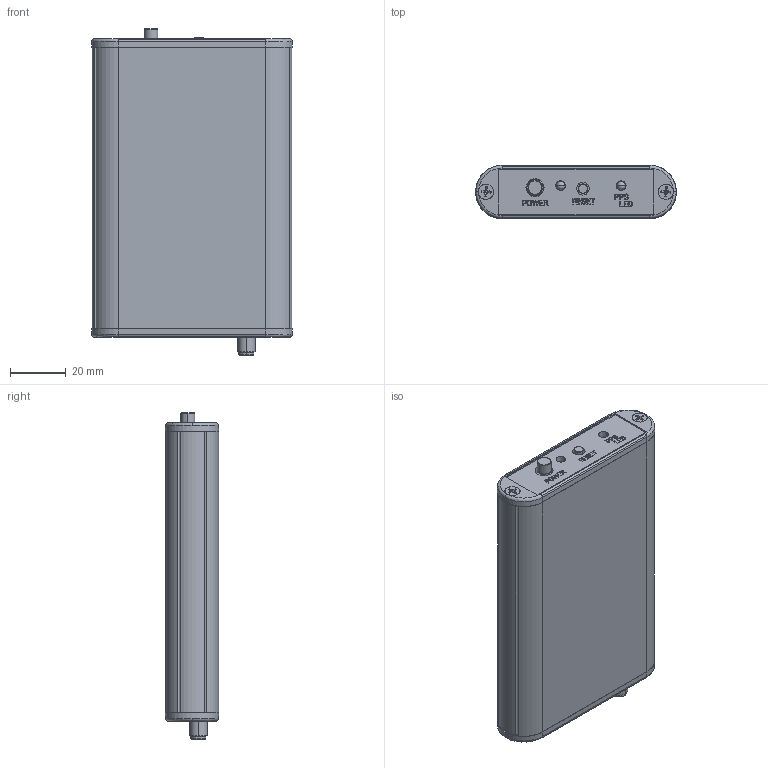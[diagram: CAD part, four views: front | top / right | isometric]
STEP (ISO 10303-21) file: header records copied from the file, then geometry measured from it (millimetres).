
FILE_DESCRIPTION (( 'STEP AP214' ), '1' );
FILE_NAME ('PNT-SG3FS-EVAL_ASSEMBLY.STEP', '2023-05-22T02:42:36', ( '' ), ( '' ), 'SwSTEP 2.0', 'SolidWorks 2020', '' );
FILE_SCHEMA (( 'AUTOMOTIVE_DESIGN' ));
Length unit declared in the file: millimetre
Products named in the file (80): CON_HDR_3P_SAM_TSW-103-07-L-S^J525_PCB_PNT-SG3FS-EVAL_預設; BB16AH_預設; 1455MS100BK_預設; J521^PCB_PNT-SG3FS-EVAL_預設; L501^PCB_PNT-SG3FS-EVAL_預設; _HTSW-102-07-G-S_body^CON_HDR_2P_SAM_HTSW-102-07-G-S_J5_PCB_PNT-SG3FS-EVAL_¹w³]; _T-1S6-07-HTSW-1--07-2-S^CON_HDR_2P_SAM_HTSW-102-07-G-S_J4_PCB_PNT-SG3FS-EVAL_¹w³]; J529^PCB_PNT-SG3FS-EVAL_預設; TOP LABEL_預設; CON_HDR_3P_SAM_TSW-103-07-L-S^J524_PCB_PNT-SG3FS-EVAL_預設; _HTSW-102-07-G-S_body^CON_HDR_2P_SAM_HTSW-102-07-G-S_J4_PCB_PNT-SG3FS-EVAL_¹w³]; J520^PCB_PNT-SG3FS-EVAL_預設; J530^PCB_PNT-SG3FS-EVAL_預設; FRONT COVER_PNT-SG3FS-EVAL_預設; J522^PCB_PNT-SG3FS-EVAL_預設; J533^PCB_PNT-SG3FS-EVAL_預設; SMA-J-P-X-ST-EM2_預設; J519^PCB_PNT-SG3FS-EVAL_預設; J5^PCB_PNT-SG3FS-EVAL_預設; J523^PCB_PNT-SG3FS-EVAL_預設; J532^PCB_PNT-SG3FS-EVAL_預設; IDC_10PIN_RA_預設; J527^PCB_PNT-SG3FS-EVAL_預設; LED_BL-33X-1_預設; J503^PCB_PNT-SG3FS-EVAL_預設; Open CASCADE STEP translator 6.8 1.1.1^Board_PCB_PNT-SG3FS-EVAL_¹w³]; J6^PCB_PNT-SG3FS-EVAL_預設; CON_HDR_3P_SAM_TSW-103-07-L-S^J501_PCB_PNT-SG3FS-EVAL_預設; CON_HDR_3P_SAM_TSW-103-07-L-S^J521_PCB_PNT-SG3FS-EVAL_預設; J3^PCB_PNT-SG3FS-EVAL_預設; L502^PCB_PNT-SG3FS-EVAL_預設; _HTSW-102-07-G-S_body^CON_HDR_2P_SAM_HTSW-102-07-G-S_J3_PCB_PNT-SG3FS-EVAL_¹w³]; CON_HDR_3P_SAM_TSW-103-07-L-S^J530_PCB_PNT-SG3FS-EVAL_預設; CON_HDR_3P_SAM_TSW-103-07-L-S^J302_PCB_PNT-SG3FS-EVAL_預設; PCBA_PNT-SG3FS-EVAL_預設; J4^PCB_PNT-SG3FS-EVAL_預設; c-1-1825027-7-g-3d_FSMRA6JH04_預設; CON_HDR_3P_SAM_TSW-103-07-L-S^J523_PCB_PNT-SG3FS-EVAL_預設; CON_HDR_3P_SAM_TSW-103-07-L-S^J503_PCB_PNT-SG3FS-EVAL_預設; CON_HDR_3P_SAM_TSW-103-07-L-S^J526_PCB_PNT-SG3FS-EVAL_預設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
Assembly tree (83 placements, depth 6):
  PNT-SG3FS-EVAL_ASSEMBLY
    HOUSING_PNT-SG3FS-EVAL_預設
    PCBA_PNT-SG3FS-EVAL_預設
      PCB_PNT-SG3FS-EVAL_預設
        Board^PCB_PNT-SG3FS-EVAL_預設
          Open CASCADE STEP translator 6.8 1.1.1^Board_PCB_PNT-SG3FS-EVAL_¹w³]
        J6^PCB_PNT-SG3FS-EVAL_預設
          CON_HDR_2P_SAM_HTSW-102-07-G-S^J6_PCB_PNT-SG3FS-EVAL_預設
            _HTSW-102-07-G-S_body^CON_HDR_2P_SAM_HTSW-102-07-G-S_J6_PCB_PNT-SG3FS-EVAL_¹w³]
            _T-1S6-07-HTSW-1--07-2-S^CON_HDR_2P_SAM_HTSW-102-07-G-S_J6_PCB_PNT-SG3FS-EVAL_¹w³]
        J5^PCB_PNT-SG3FS-EVAL_預設
          CON_HDR_2P_SAM_HTSW-102-07-G-S^J5_PCB_PNT-SG3FS-EVAL_預設
            _HTSW-102-07-G-S_body^CON_HDR_2P_SAM_HTSW-102-07-G-S_J5_PCB_PNT-SG3FS-EVAL_¹w³]
            _T-1S6-07-HTSW-1--07-2-S^CON_HDR_2P_SAM_HTSW-102-07-G-S_J5_PCB_PNT-SG3FS-EVAL_¹w³]
        J536^PCB_PNT-SG3FS-EVAL_預設
          CON_HDR_3P_SAM_TSW-103-07-L-S^J536_PCB_PNT-SG3FS-EVAL_預設
        J4^PCB_PNT-SG3FS-EVAL_預設
          CON_HDR_2P_SAM_HTSW-102-07-G-S^J4_PCB_PNT-SG3FS-EVAL_預設
            _HTSW-102-07-G-S_body^CON_HDR_2P_SAM_HTSW-102-07-G-S_J4_PCB_PNT-SG3FS-EVAL_¹w³]
            _T-1S6-07-HTSW-1--07-2-S^CON_HDR_2P_SAM_HTSW-102-07-G-S_J4_PCB_PNT-SG3FS-EVAL_¹w³]
        J3^PCB_PNT-SG3FS-EVAL_預設
          CON_HDR_2P_SAM_HTSW-102-07-G-S^J3_PCB_PNT-SG3FS-EVAL_預設
            _HTSW-102-07-G-S_body^CON_HDR_2P_SAM_HTSW-102-07-G-S_J3_PCB_PNT-SG3FS-EVAL_¹w³]
            _T-1S6-07-HTSW-1--07-2-S^CON_HDR_2P_SAM_HTSW-102-07-G-S_J3_PCB_PNT-SG3FS-EVAL_¹w³]
        J535^PCB_PNT-SG3FS-EVAL_預設
          CON_HDR_3P_SAM_TSW-103-07-L-S^J535_PCB_PNT-SG3FS-EVAL_預設
        J534^PCB_PNT-SG3FS-EVAL_預設
          CON_HDR_3P_SAM_TSW-103-07-L-S^J534_PCB_PNT-SG3FS-EVAL_預設
        J532^PCB_PNT-SG3FS-EVAL_預設
          CON_HDR_3P_SAM_TSW-103-07-L-S^J532_PCB_PNT-SG3FS-EVAL_預設
        J533^PCB_PNT-SG3FS-EVAL_預設
          CON_HDR_3P_SAM_TSW-103-07-L-S^J533_PCB_PNT-SG3FS-EVAL_預設
        J531^PCB_PNT-SG3FS-EVAL_預設
          CON_HDR_3P_SAM_TSW-103-07-L-S^J531_PCB_PNT-SG3FS-EVAL_預設
        J530^PCB_PNT-SG3FS-EVAL_預設
          CON_HDR_3P_SAM_TSW-103-07-L-S^J530_PCB_PNT-SG3FS-EVAL_預設
        J529^PCB_PNT-SG3FS-EVAL_預設
          CON_HDR_3P_SAM_TSW-103-07-L-S^J529_PCB_PNT-SG3FS-EVAL_預設
        J528^PCB_PNT-SG3FS-EVAL_預設
          CON_HDR_3P_SAM_TSW-103-07-L-S^J528_PCB_PNT-SG3FS-EVAL_預設
        J527^PCB_PNT-SG3FS-EVAL_預設
          CON_HDR_3P_SAM_TSW-103-07-L-S^J527_PCB_PNT-SG3FS-EVAL_預設
        J526^PCB_PNT-SG3FS-EVAL_預設
          CON_HDR_3P_SAM_TSW-103-07-L-S^J526_PCB_PNT-SG3FS-EVAL_預設
        J525^PCB_PNT-SG3FS-EVAL_預設
          CON_HDR_3P_SAM_TSW-103-07-L-S^J525_PCB_PNT-SG3FS-EVAL_預設
        J524^PCB_PNT-SG3FS-EVAL_預設
          CON_HDR_3P_SAM_TSW-103-07-L-S^J524_PCB_PNT-SG3FS-EVAL_預設
        J523^PCB_PNT-SG3FS-EVAL_預設
          CON_HDR_3P_SAM_TSW-103-07-L-S^J523_PCB_PNT-SG3FS-EVAL_預設
        J522^PCB_PNT-SG3FS-EVAL_預設
          CON_HDR_3P_SAM_TSW-103-07-L-S^J522_PCB_PNT-SG3FS-EVAL_預設
        J521^PCB_PNT-SG3FS-EVAL_預設
          CON_HDR_3P_SAM_TSW-103-07-L-S^J521_PCB_PNT-SG3FS-EVAL_預設
        J520^PCB_PNT-SG3FS-EVAL_預設
          CON_HDR_3P_SAM_TSW-103-07-L-S^J520_PCB_PNT-SG3FS-EVAL_預設
        J519^PCB_PNT-SG3FS-EVAL_預設
          CON_HDR_3P_SAM_TSW-103-07-L-S^J519_PCB_PNT-SG3FS-EVAL_預設
        J501^PCB_PNT-SG3FS-EVAL_預設
          CON_HDR_3P_SAM_TSW-103-07-L-S^J501_PCB_PNT-SG3FS-EVAL_預設
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Bounding box: 72.04 x 19.15 x 117.01 mm (x, y, z)
Volume: 55177.5 mm3; surface area: 75642.4 mm2
Topology: 58 solids, 59 shells, 7597 faces, 19247 edges, 12114 vertices
Faces by surface type: plane 5917, cylinder 1261, bspline 198, cone 131, torus 76, sphere 14
Entity records: 251232 total; most frequent: CARTESIAN_POINT 52542, ORIENTED_EDGE 35176, DIRECTION 32447, EDGE_CURVE 17588, VECTOR 15097, LINE 15097, VERTEX_POINT 11022, AXIS2_PLACEMENT_3D 8675
